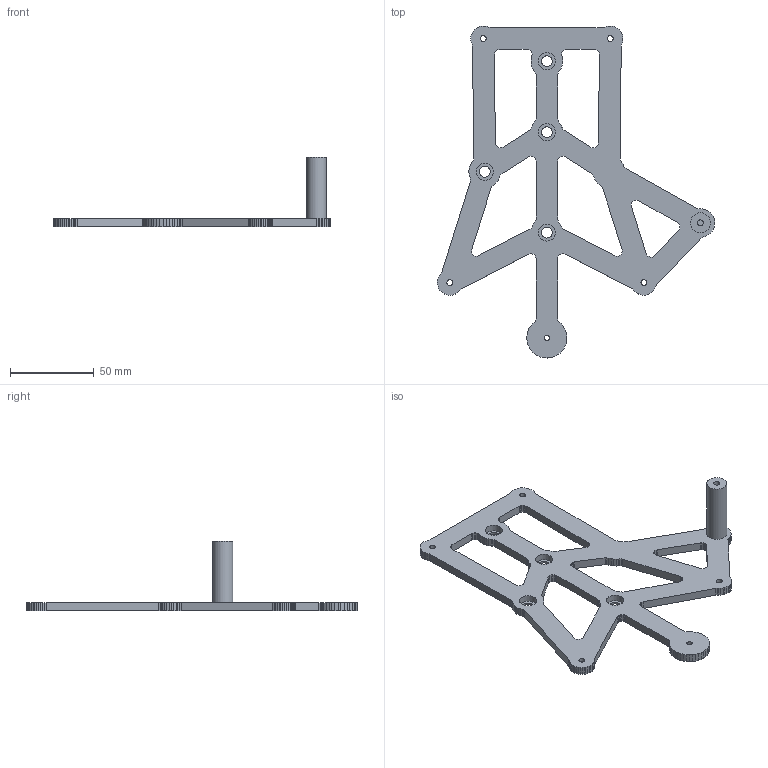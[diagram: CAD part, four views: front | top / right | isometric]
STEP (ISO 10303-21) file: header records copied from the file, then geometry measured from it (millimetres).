
FILE_DESCRIPTION(('Open CASCADE Model'),'2;1');
FILE_NAME('Open CASCADE Shape Model','2026-10-12T22:10:12',('Author'),( 'Open CASCADE'),'Open CASCADE STEP processor 7.9','Open CASCADE 7.9' ,'Unknown');
FILE_SCHEMA(('AUTOMOTIVE_DESIGN { 1 0 10303 214 1 1 1 1 }'));
Length unit declared in the file: millimetre
Products named in the file (1): Open CASCADE STEP translator 7.9 1
Bounding box: 165.79 x 198.48 x 41.8 mm (x, y, z)
Volume: 57889.9 mm3; surface area: 31442.4 mm2
Topology: 1 solids, 1 shells, 378 faces, 1110 edges, 740 vertices
Faces by surface type: plane 363, cylinder 15
Full cylindrical faces by diameter (mm): 3.2 x1, 3.5 x5, 6.5 x4, 10.2 x4, 12 x1
Entity records: 26877 total; most frequent: CARTESIAN_POINT 4563, DIRECTION 4099, LINE 3270, VECTOR 3270, ORIENTED_EDGE 2220, PCURVE 2220, DEFINITIONAL_REPRESENTATION 2220, EDGE_CURVE 1110
